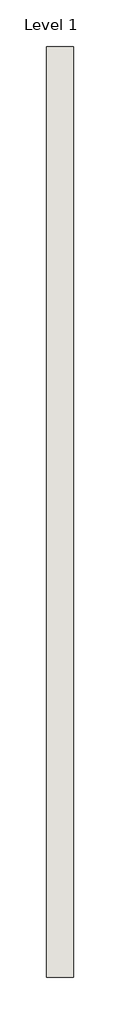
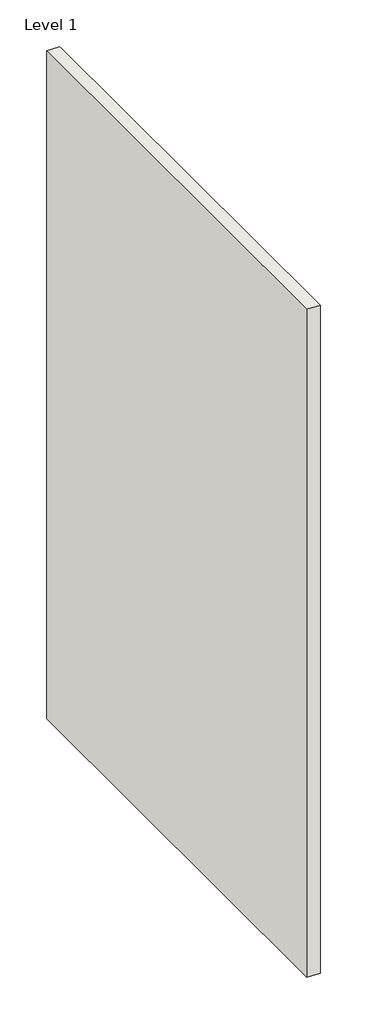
# One storey, incomplete: 1 wall.
"""IFC4 building model written with IfcOpenShell, lengths in millimetres."""

from ifc_helpers import new_model, si_unit, frame, origin, place, context, project, spatial, polyline, outline, extrude, element, save

model = new_model("IFC4")

# Units and contexts
model_context = context("Model", 3, world=origin())
ifc_project = project(units=[si_unit("LENGTHUNIT", "METRE", prefix="MILLI")], contexts=[model_context])

# Site, building, storey
site = spatial("IfcSite", under=ifc_project)
building = spatial("IfcBuilding", under=site)
storey = spatial("IfcBuildingStorey", under=building, Name="Level 1", Elevation=0.0)

# Wall
placement = place(None, origin())
element("IfcWall", 1, ObjectType="Generic - 150mm", at=placement, inside=storey, context=model_context, shape_type="SweptSolid", body=[
    extrude(outline(polyline([(3164.3630881, 3953.6677925), (3164.3630881, -1151.7322075), (3014.3630881, -1151.7322075), (3014.3630881, 3953.6677925), (3164.3630881, 3953.6677925)])), frame((0.0, 0.0, -8000.0), z_axis=(0.0, 0.0, 1.0), x_axis=(1.0, 0.0, 0.0)), (0.0, 0.0, 1.0), 8000.0),
])

save(model, "model.ifc")
